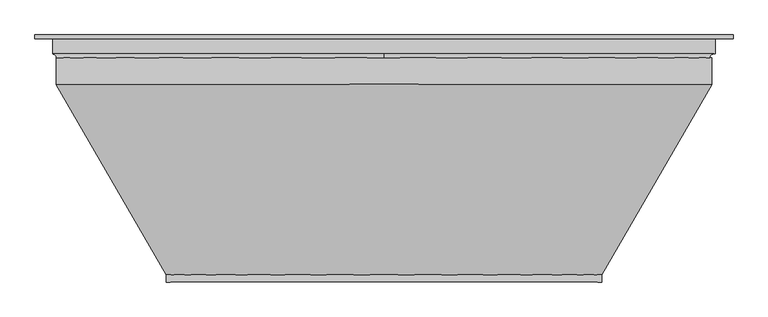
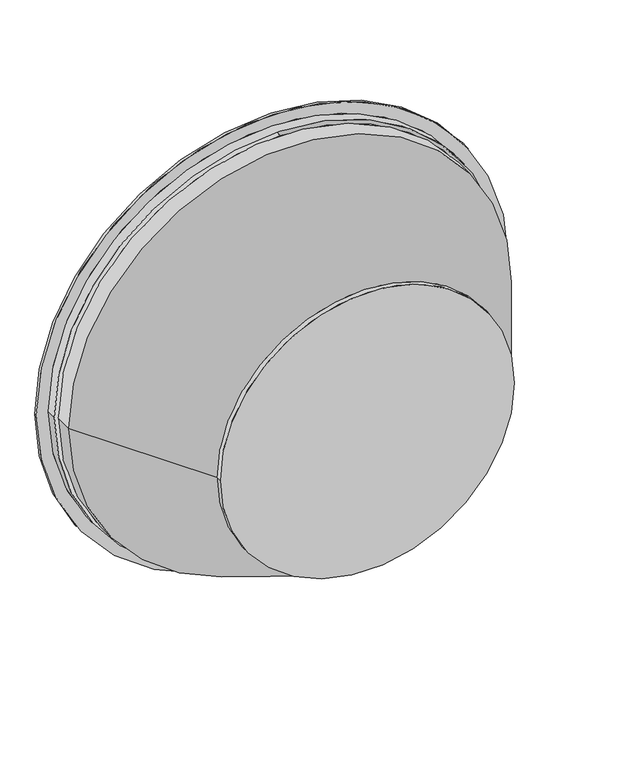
"""IFC4 building model written with IfcOpenShell, lengths in millimetres: proxy geometry, Ipart.TGPT.Base-04."""

from ifc_helpers import new_model, si_unit, point, frame, origin, place, context, project, spatial, polyline, circle_curve, ellipse_curve, trimmed, source, transform, mapped, element, save
from ifc_brep_helpers import plane_surface, cylinder_surface, revolved_surface, advanced_brep


def generic_models_4a861181(model_context):
    return source(origin(), model_context, "Body", "AdvancedBrep", [
        advanced_brep(
        [(-1618.0, 1145.0, 0.0), (-1618.0, 1127.0, 0.0), (1618.0, 1127.0, 0.0), (1618.0, 1145.0, 0.0), (-1009.2522712, 34.0, 0.0), (-1009.2522712, 0.0, 0.0), (1009.2522712, 0.0, 0.0), (1009.2522712, 34.0, 0.0), (-1518.0, 1038.8230855, 0.0), (-1518.0, 915.1769145, 0.0), (1518.0, 915.1769145, 0.0), (1518.0, 1038.8230855, 0.0), (0.0, 1038.8230855, 1518.0), (0.0, 1038.8230855, -1518.0), (0.0, 1056.8230855, -1536.0), (1536.0, 1056.8230855, 0.0), (0.0, 1056.8230855, 1536.0), (-1536.0, 1127.0, 0.0), (-1536.0, 1056.8230855, 0.0), (1536.0, 1127.0, 0.0)],
        [
            (0, 1),
            (1, 2, circle_curve(frame((0.0, 1127.0, 0.0), z_axis=(0.0, 1.0, 0.0), x_axis=(-1.0, 0.0, 0.0)), 1618.0)),
            (2, 3),
            (3, 0, circle_curve(frame((0.0, 1145.0, 0.0), z_axis=(0.0, -1.0, 0.0), x_axis=(-1.0, 0.0, 0.0)), 1618.0)),
            (4, 5),
            (5, 6, circle_curve(frame((0.0, 0.0, 0.0), z_axis=(0.0, 1.0, 0.0), x_axis=(-1.0, 0.0, 0.0)), 1009.2522712)),
            (6, 7),
            (7, 4, circle_curve(frame((0.0, 34.0, 0.0), z_axis=(0.0, -1.0, 0.0), x_axis=(-1.0, 0.0, 0.0)), 1009.2522712)),
            (8, 9),
            (9, 10, circle_curve(frame((0.0, 915.1769145, 0.0), z_axis=(0.0, 1.0, 0.0), x_axis=(-1.0, 0.0, 0.0)), 1518.0)),
            (10, 11),
            (11, 12, circle_curve(frame((0.0, 1038.8230855, 0.0), z_axis=(0.0, -1.0, 0.0), x_axis=(-1.0, 0.0, 0.0)), 1518.0)),
            (12, 8, circle_curve(frame((0.0, 1038.8230855, 0.0), z_axis=(0.0, -1.0, 0.0), x_axis=(-1.0, 0.0, 0.0)), 1518.0)),
            (13, 14, circle_curve(frame((0.0, 1038.8230855, -1536.0), z_axis=(-1.0, 0.0, 0.0), x_axis=(0.0, 0.0, -1.0)), 18.0)),
            (14, 15, circle_curve(frame((0.0, 1056.8230855, 0.0), z_axis=(0.0, -1.0, 0.0), x_axis=(0.0, 0.0, -1.0)), 1536.0)),
            (15, 16, circle_curve(frame((0.0, 1056.8230855, 0.0), z_axis=(0.0, -1.0, 0.0), x_axis=(0.0, 0.0, -1.0)), 1536.0)),
            (16, 12, circle_curve(frame((0.0, 1038.8230855, 1536.0), z_axis=(-1.0, 0.0, 0.0), x_axis=(0.0, 0.0, 1.0)), 18.0)),
            (11, 13, circle_curve(frame((0.0, 1038.8230855, 0.0), z_axis=(0.0, 1.0, 0.0), x_axis=(0.0, 0.0, -1.0)), 1518.0)),
            (17, 18),
            (18, 16, circle_curve(frame((0.0, 1056.8230855, 0.0), z_axis=(0.0, 1.0, 0.0), x_axis=(-1.0, 0.0, 0.0)), 1536.0)),
            (15, 19),
            (19, 17, circle_curve(frame((0.0, 1127.0, 0.0), z_axis=(0.0, -1.0, 0.0), x_axis=(-1.0, 0.0, 0.0)), 1536.0)),
            (9, 4),
            (7, 10),
            (3, 0, circle_curve(frame((0.0, 1145.0, 0.0), z_axis=(0.0, 1.0, 0.0), x_axis=(-1.0, 0.0, 0.0)), 1618.0)),
            (9, 10, circle_curve(frame((0.0, 915.1769145, 0.0), z_axis=(0.0, -1.0, 0.0), x_axis=(-1.0, 0.0, 0.0)), 1518.0)),
            (7, 4, circle_curve(frame((0.0, 34.0, 0.0), z_axis=(0.0, 1.0, 0.0), x_axis=(-1.0, 0.0, 0.0)), 1009.2522712)),
            (1, 2, circle_curve(frame((0.0, 1127.0, 0.0), z_axis=(0.0, -1.0, 0.0), x_axis=(-1.0, 0.0, 0.0)), 1618.0)),
            (19, 17, circle_curve(frame((0.0, 1127.0, 0.0), z_axis=(0.0, 1.0, 0.0), x_axis=(-1.0, 0.0, 0.0)), 1536.0)),
            (14, 18, circle_curve(frame((0.0, 1056.8230855, 0.0), z_axis=(0.0, 1.0, 0.0), x_axis=(-1.0, 0.0, 0.0)), 1536.0)),
            (13, 8, circle_curve(frame((0.0, 1038.8230855, 0.0), z_axis=(0.0, 1.0, 0.0), x_axis=(0.0, 0.0, 1.0)), 1518.0)),
            (6, 5, circle_curve(frame((0.0, 0.0, 0.0), z_axis=(0.0, 1.0, 0.0), x_axis=(-1.0, 0.0, 0.0)), 1009.2522712)),
        ],
        [
            cylinder_surface(frame((0.0, 1136.0, 0.0), z_axis=(0.0, -1.0, 0.0), x_axis=(-1.0, 0.0, 0.0)), 1618.0),
            cylinder_surface(frame((0.0, 17.0, 0.0), z_axis=(0.0, -1.0, 0.0), x_axis=(-1.0, 0.0, 0.0)), 1009.2522712),
            cylinder_surface(frame((0.0, 983.5884573, 0.0), z_axis=(0.0, -1.0, 0.0), x_axis=(-1.0, 0.0, 0.0)), 1518.0),
            revolved_surface(trimmed(ellipse_curve(frame((0.0, 1038.8230855, -1536.0), z_axis=(1.0, 0.0, 0.0), x_axis=(0.0, 0.0, -1.0)), 18.0, 18.0), [point((0.0, 1056.8230855, -1536.0))], [point((0.0, 1038.8230855, -1518.0))], True, "CARTESIAN"), (0.0, 1038.8230855, 0.0), (0.0, -1.0, 0.0)),
            cylinder_surface(frame((0.0, 1089.5, 0.0), z_axis=(0.0, -1.0, 0.0), x_axis=(-1.0, 0.0, 0.0)), 1536.0),
            revolved_surface(polyline([(-1009.252271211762, 34.0, 0.0), (-1518.0, 915.1769144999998, 0.0)]), (0.0, -1714.0762114, 0.0), (0.0, 1.0, 0.0)),
            plane_surface(frame((-1618.0, 1145.0, 0.0), z_axis=(0.0, 1.0, 0.0), x_axis=(0.0, 0.0, 1.0))),
            plane_surface(frame((-1536.0, 1127.0, 0.0), z_axis=(0.0, -1.0, 0.0), x_axis=(0.0, 0.0, -1.0))),
            revolved_surface(trimmed(ellipse_curve(frame((0.0, 1038.8230855, 1536.0), z_axis=(-1.0, 0.0, 0.0), x_axis=(0.0, 0.0, 1.0)), 18.0, 18.0), [point((0.0, 1056.8230855, 1536.0))], [point((0.0, 1038.8230855, 1518.0))], True, "CARTESIAN"), (0.0, 1038.8230855, 0.0), (0.0, -1.0, 0.0)),
            plane_surface(frame((0.0, 0.0, 0.0), z_axis=(0.0, -1.0, 0.0), x_axis=(0.0, 0.0, -1.0))),
        ],
        [
            (0, [[1, 2, 3, 4]]),
            (1, [[5, 6, 7, 8]]),
            (2, [[9, 10, 11, 12, 13]]),
            (3, [[14, 15, 16, 17, -12, 18]]),
            (4, [[19, 20, -16, 21, 22]]),
            (5, [[23, -8, 24, -10]]),
            (6, [[25, -4]]),
            (5, [[-23, 26, -24, 27]]),
            (7, [[28, -2], [-22, 29]]),
            (4, [[-19, -29, -21, -15, 30]]),
            (8, [[-14, 31, -13, -17, -20, -30]]),
            (2, [[-9, -31, -18, -11, -26]]),
            (1, [[-5, -27, -7, 32]]),
            (9, [[-32, -6]]),
            (0, [[-1, -25, -3, -28]]),
        ],
    ),
    ])


if __name__ == "__main__":
    model = new_model("IFC4")
    model_context = context("Model", 3, world=origin())
    ifc_project = project(units=[si_unit("LENGTHUNIT", "METRE", prefix="MILLI")], contexts=[model_context])
    site = spatial("IfcSite", under=ifc_project)
    building = spatial("IfcBuilding", under=site)
    placement = place(None, origin())
    generic_models_shape = generic_models_4a861181(model_context)
    element("IfcBuildingElementProxy", 1, Name="Ipart.TGPT.Base-04", ObjectType="Ipart.TGPT.Base-04", at=placement, inside=building, context=model_context, shape_type="MappedRepresentation", body=[
        mapped(generic_models_shape, transform((0.0, 0.0, 0.0), x_axis=(1.0, 0.0, 0.0), y_axis=(0.0, 1.0, 0.0), z_axis=(0.0, 0.0, 1.0))),
    ])
    save(model, "model.ifc")
